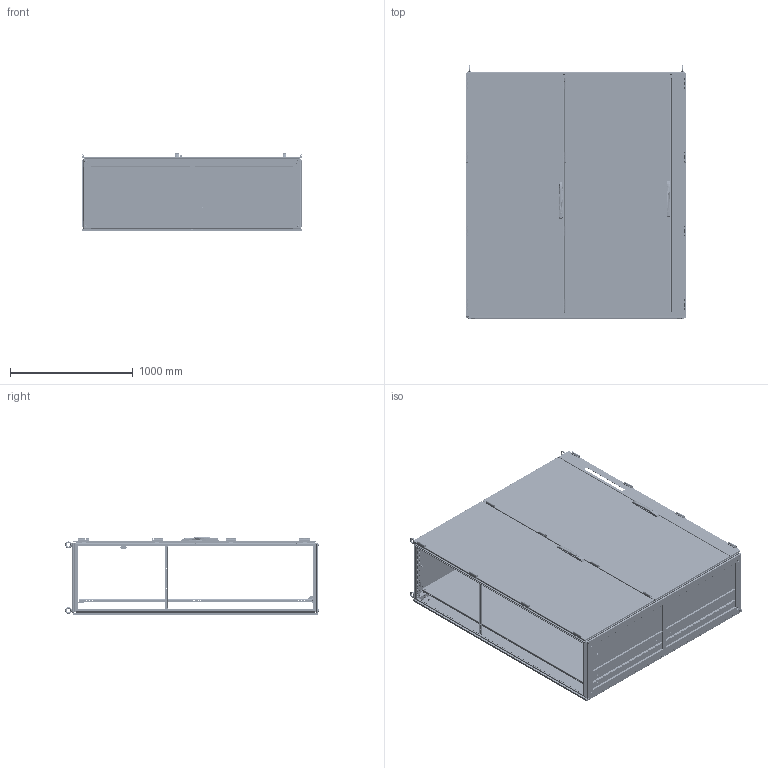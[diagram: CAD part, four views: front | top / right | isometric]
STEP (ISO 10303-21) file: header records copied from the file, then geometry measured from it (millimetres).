
FILE_DESCRIPTION((''),'2;1');
FILE_NAME('9951151_ASM','2015-09-24T',('US01724'),(''),'PRO/ENGINEER BY PARAMETRIC TECHNOLOGY CORPORATION, 2014310','PRO/ENGINEER BY PARAMETRIC TECHNOLOGY CORPORATION, 2014310','');
FILE_SCHEMA(('CONFIG_CONTROL_DESIGN'));
Products named in the file (79): D0051390_AF0; D0051390_AF1; D0277938_AF0; D0277938_AF1; D0051390; D0277938; D0242687; D0241135; D0054903_ASM; D0242687_AF0; D0051551; D0051552; D0051553_ASM; D0055042; TS_BASE_FRAME_CORNER; D0054922; D0055052; D0333198; D0208100; D0232470; D0054879_ASM; D0051546; D0051548; D0051545; D0241538; D0241473; D0241152; D0208517; D0241463_TS_MPL_SLIDE_BLOCK_L; D0241464_TS_MPL_SLIDE_BLOCK_R; D0241469_TS_MPL_RETAINER_RIGHT; D0241468_TS_MPL_RETAINER_LEFT; D0027209; 211119; D0200620; D8800030_ROTATING_BODY; D8800030_STATIONARY_BODY; D8800030_ASM; D0043315; TS_GASKET_DR_FMDC_LEFT_0920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
Assembly tree (190 placements, depth 4):
  9951151_ASM
    D0054903_ASM
      D0051390_AF0
      D0051390_AF1
      D0277938_AF0
      D0277938_AF1
      D0051390  x2
      D0277938  x2
      D0242687  x4
      D0241135  x8
    D0051553_ASM  x4
      D0242687_AF0
      D0051551
      D0051552
    D0054879_ASM
      D0055042  x2
      TS_BASE_FRAME_CORNER  x4
      D0054922  x2
      D0055052
      D0333198  x4
      D0208100  x4
      D0232470  x2
    D0051546  x2
    D0051548  x2
    D0051545  x2
    D0241538  x2
    D0241473  x2
    D0241152  x4
    D0208517  x2
    D0241463_TS_MPL_SLIDE_BLOCK_L
    D0241464_TS_MPL_SLIDE_BLOCK_R
    D0241469_TS_MPL_RETAINER_RIGHT
    D0241468_TS_MPL_RETAINER_LEFT
    D0027209
    211119
    D0200620
    D8800030_ASM  x12
      D8800030_ROTATING_BODY
      D8800030_STATIONARY_BODY
    D0043315_ASM
      D0043315
      TS_GASKET_DR_FMDC_LEFT_0920
      D0242763_ASM  x2
        D0242763_TS8_GROUND_STUD_M8
        D0242763_TS8_CAP_M8
      D0242679  x6
      D0223916  x8
      D0381033_ASM
        D0320606  x2
        D0320627  x2
        D0319492  x4
      TS_LOCKBAR_ASSY_2000_DBL_ASM
        D0241492
        D0241496  x2
        D0042690  x2
        D0030693  x4
    D0054749_ASM
      D0054749
      TS_GASKET_DOOR_FMDC_LEFT_0820
      D0242763_ASM  x2
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Bounding box: 1798.28 x 2064.45 x 634.17 mm (x, y, z)
Volume: 37503148.3 mm3; surface area: 38418790.9 mm2
Topology: 228 solids, 260 shells, 38962 faces, 110911 edges, 72176 vertices
Faces by surface type: plane 23416, cylinder 13686, cone 680, torus 610, bspline 324, sphere 146, extrusion 96, revolution 4
Entity records: 480010 total; most frequent: CARTESIAN_POINT 89318, ORIENTED_EDGE 80190, DIRECTION 78656, EDGE_CURVE 40099, VECTOR 28978, LINE 28954, VERTEX_POINT 26172, AXIS2_PLACEMENT_3D 24838
